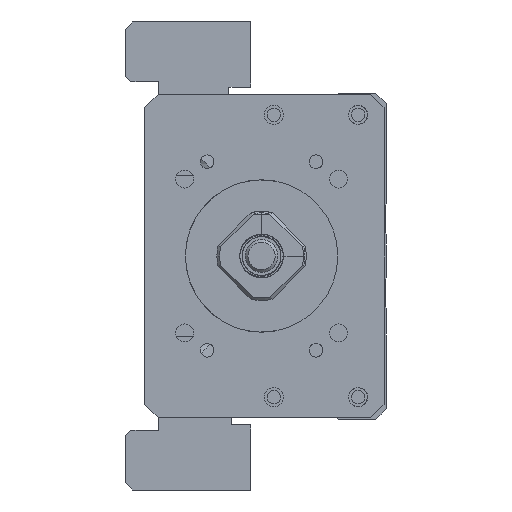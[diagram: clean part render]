
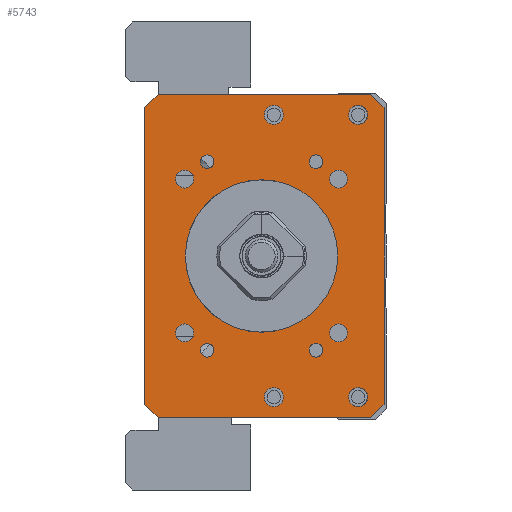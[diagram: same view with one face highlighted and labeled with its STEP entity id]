
A CAD part, left-side view. The second image highlights one B-rep face of the part: STEP entity #5743.
In plain terms, the highlighted planar face has unit normal (-1, 0, 0).
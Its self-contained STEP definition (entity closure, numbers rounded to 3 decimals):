
#4563=FACE_BOUND('',#7506,.T.);
#4564=FACE_BOUND('',#7507,.T.);
#4565=FACE_BOUND('',#7508,.T.);
#4566=FACE_BOUND('',#7509,.T.);
#4567=FACE_BOUND('',#7510,.T.);
#4568=FACE_BOUND('',#7511,.T.);
#4569=FACE_BOUND('',#7512,.T.);
#4570=FACE_BOUND('',#7513,.T.);
#4571=FACE_BOUND('',#7514,.T.);
#4572=FACE_BOUND('',#7515,.T.);
#4573=FACE_BOUND('',#7516,.T.);
#4574=FACE_BOUND('',#7517,.T.);
#4575=FACE_BOUND('',#7518,.T.);
#4576=FACE_BOUND('',#7519,.T.);
#5119=CIRCLE('',#16092,14.);
#5128=CIRCLE('',#16103,1.65);
#5129=CIRCLE('',#16104,1.65);
#5130=CIRCLE('',#16105,1.65);
#5131=CIRCLE('',#16106,1.65);
#5132=CIRCLE('',#16107,1.25);
#5133=CIRCLE('',#16108,1.75);
#5134=CIRCLE('',#16109,1.25);
#5135=CIRCLE('',#16110,1.75);
#5136=CIRCLE('',#16111,1.25);
#5137=CIRCLE('',#16112,1.75);
#5138=CIRCLE('',#16113,1.75);
#5139=CIRCLE('',#16114,1.25);
#5743=ADVANCED_FACE('',(#4563,#4564,#4565,#4566,#4567,#4568,#4569,#4570,
#4571,#4572,#4573,#4574,#4575,#4576),#6307,.F.);
#6307=PLANE('',#16115);
#7506=EDGE_LOOP('',(#9806));
#7507=EDGE_LOOP('',(#9807));
#7508=EDGE_LOOP('',(#9808));
#7509=EDGE_LOOP('',(#9809));
#7510=EDGE_LOOP('',(#9810));
#7511=EDGE_LOOP('',(#9811));
#7512=EDGE_LOOP('',(#9812));
#7513=EDGE_LOOP('',(#9813));
#7514=EDGE_LOOP('',(#9814));
#7515=EDGE_LOOP('',(#9815,#9816,#9817,#9818,#9819,#9820,#9821,#9822));
#7516=EDGE_LOOP('',(#9823));
#7517=EDGE_LOOP('',(#9824));
#7518=EDGE_LOOP('',(#9825));
#7519=EDGE_LOOP('',(#9826));
#9806=ORIENTED_EDGE('',*,*,#13017,.F.);
#9807=ORIENTED_EDGE('',*,*,#13018,.F.);
#9808=ORIENTED_EDGE('',*,*,#13019,.F.);
#9809=ORIENTED_EDGE('',*,*,#13020,.F.);
#9810=ORIENTED_EDGE('',*,*,#13021,.F.);
#9811=ORIENTED_EDGE('',*,*,#13022,.T.);
#9812=ORIENTED_EDGE('',*,*,#13023,.F.);
#9813=ORIENTED_EDGE('',*,*,#13024,.F.);
#9814=ORIENTED_EDGE('',*,*,#13025,.F.);
#9815=ORIENTED_EDGE('',*,*,#13014,.T.);
#9816=ORIENTED_EDGE('',*,*,#13026,.T.);
#9817=ORIENTED_EDGE('',*,*,#13027,.F.);
#9818=ORIENTED_EDGE('',*,*,#13028,.T.);
#9819=ORIENTED_EDGE('',*,*,#13029,.F.);
#9820=ORIENTED_EDGE('',*,*,#13030,.T.);
#9821=ORIENTED_EDGE('',*,*,#13031,.T.);
#9822=ORIENTED_EDGE('',*,*,#13032,.T.);
#9823=ORIENTED_EDGE('',*,*,#13033,.F.);
#9824=ORIENTED_EDGE('',*,*,#13034,.F.);
#9825=ORIENTED_EDGE('',*,*,#13035,.F.);
#9826=ORIENTED_EDGE('',*,*,#12994,.F.);
#11652=VERTEX_POINT('',#22453);
#11672=VERTEX_POINT('',#22513);
#11673=VERTEX_POINT('',#22515);
#11675=VERTEX_POINT('',#22521);
#11676=VERTEX_POINT('',#22523);
#11677=VERTEX_POINT('',#22525);
#11678=VERTEX_POINT('',#22527);
#11679=VERTEX_POINT('',#22529);
#11680=VERTEX_POINT('',#22531);
#11681=VERTEX_POINT('',#22533);
#11682=VERTEX_POINT('',#22535);
#11683=VERTEX_POINT('',#22537);
#11684=VERTEX_POINT('',#22539);
#11685=VERTEX_POINT('',#22541);
#11686=VERTEX_POINT('',#22543);
#11687=VERTEX_POINT('',#22545);
#11688=VERTEX_POINT('',#22547);
#11689=VERTEX_POINT('',#22549);
#11690=VERTEX_POINT('',#22552);
#11691=VERTEX_POINT('',#22554);
#11692=VERTEX_POINT('',#22556);
#12994=EDGE_CURVE('',#11652,#11652,#5119,.T.);
#13014=EDGE_CURVE('',#11673,#11672,#14254,.T.);
#13017=EDGE_CURVE('',#11675,#11675,#5128,.T.);
#13018=EDGE_CURVE('',#11676,#11676,#5129,.T.);
#13019=EDGE_CURVE('',#11677,#11677,#5130,.T.);
#13020=EDGE_CURVE('',#11678,#11678,#5131,.T.);
#13021=EDGE_CURVE('',#11679,#11679,#5132,.T.);
#13022=EDGE_CURVE('',#11680,#11680,#5133,.T.);
#13023=EDGE_CURVE('',#11681,#11681,#5134,.T.);
#13024=EDGE_CURVE('',#11682,#11682,#5135,.T.);
#13025=EDGE_CURVE('',#11683,#11683,#5136,.T.);
#13026=EDGE_CURVE('',#11672,#11684,#14256,.T.);
#13027=EDGE_CURVE('',#11685,#11684,#14257,.T.);
#13028=EDGE_CURVE('',#11685,#11686,#14258,.T.);
#13029=EDGE_CURVE('',#11687,#11686,#14259,.T.);
#13030=EDGE_CURVE('',#11687,#11688,#14260,.T.);
#13031=EDGE_CURVE('',#11688,#11689,#14261,.T.);
#13032=EDGE_CURVE('',#11689,#11673,#14262,.T.);
#13033=EDGE_CURVE('',#11690,#11690,#5137,.T.);
#13034=EDGE_CURVE('',#11691,#11691,#5138,.T.);
#13035=EDGE_CURVE('',#11692,#11692,#5139,.T.);
#14254=LINE('',#22514,#15173);
#14256=LINE('',#22538,#15175);
#14257=LINE('',#22540,#15176);
#14258=LINE('',#22542,#15177);
#14259=LINE('',#22544,#15178);
#14260=LINE('',#22546,#15179);
#14261=LINE('',#22548,#15180);
#14262=LINE('',#22550,#15181);
#15173=VECTOR('',#18567,1.);
#15175=VECTOR('',#18591,1.);
#15176=VECTOR('',#18592,1.);
#15177=VECTOR('',#18593,1.);
#15178=VECTOR('',#18594,1.);
#15179=VECTOR('',#18595,1.);
#15180=VECTOR('',#18596,1.);
#15181=VECTOR('',#18597,1.);
#16092=AXIS2_PLACEMENT_3D('',#22452,#18541,#18542);
#16103=AXIS2_PLACEMENT_3D('',#22520,#18573,#18574);
#16104=AXIS2_PLACEMENT_3D('',#22522,#18575,#18576);
#16105=AXIS2_PLACEMENT_3D('',#22524,#18577,#18578);
#16106=AXIS2_PLACEMENT_3D('',#22526,#18579,#18580);
#16107=AXIS2_PLACEMENT_3D('',#22528,#18581,#18582);
#16108=AXIS2_PLACEMENT_3D('',#22530,#18583,#18584);
#16109=AXIS2_PLACEMENT_3D('',#22532,#18585,#18586);
#16110=AXIS2_PLACEMENT_3D('',#22534,#18587,#18588);
#16111=AXIS2_PLACEMENT_3D('',#22536,#18589,#18590);
#16112=AXIS2_PLACEMENT_3D('',#22551,#18598,#18599);
#16113=AXIS2_PLACEMENT_3D('',#22553,#18600,#18601);
#16114=AXIS2_PLACEMENT_3D('',#22555,#18602,#18603);
#16115=AXIS2_PLACEMENT_3D('',#22557,#18604,#18605);
#18541=DIRECTION('',(-1.,0.,0.));
#18542=DIRECTION('',(0.,1.,0.));
#18567=DIRECTION('',(0.,0.,-1.));
#18573=DIRECTION('',(-1.,0.,0.));
#18574=DIRECTION('',(0.,0.,1.));
#18575=DIRECTION('',(-1.,0.,0.));
#18576=DIRECTION('',(0.,0.,1.));
#18577=DIRECTION('',(-1.,0.,0.));
#18578=DIRECTION('',(0.,0.,1.));
#18579=DIRECTION('',(-1.,0.,0.));
#18580=DIRECTION('',(0.,0.,1.));
#18581=DIRECTION('',(-1.,0.,0.));
#18582=DIRECTION('',(0.,1.,0.));
#18583=DIRECTION('',(1.,0.,0.));
#18584=DIRECTION('',(0.,0.,1.));
#18585=DIRECTION('',(-1.,0.,0.));
#18586=DIRECTION('',(0.,1.,0.));
#18587=DIRECTION('',(-1.,0.,0.));
#18588=DIRECTION('',(0.,0.,1.));
#18589=DIRECTION('',(-1.,0.,0.));
#18590=DIRECTION('',(0.,1.,0.));
#18591=DIRECTION('',(0.,-0.707,-0.707));
#18592=DIRECTION('',(0.,1.,0.));
#18593=DIRECTION('',(0.,-0.707,0.707));
#18594=DIRECTION('',(0.,0.,-1.));
#18595=DIRECTION('',(0.,0.707,0.707));
#18596=DIRECTION('',(0.,1.,0.));
#18597=DIRECTION('',(0.,0.707,-0.707));
#18598=DIRECTION('',(-1.,0.,0.));
#18599=DIRECTION('',(0.,0.,1.));
#18600=DIRECTION('',(-1.,0.,0.));
#18601=DIRECTION('',(0.,0.,1.));
#18602=DIRECTION('',(-1.,0.,0.));
#18603=DIRECTION('',(0.,1.,0.));
#18604=DIRECTION('',(1.,0.,0.));
#18605=DIRECTION('',(0.,1.,0.));
#22452=CARTESIAN_POINT('',(-211.,0.,-100.));
#22453=CARTESIAN_POINT('',(-211.,14.,-100.));
#22513=CARTESIAN_POINT('',(-211.,21.499,-127.25));
#22514=CARTESIAN_POINT('',(-211.,21.499,-70.25));
#22515=CARTESIAN_POINT('',(-211.,21.499,-72.75));
#22520=CARTESIAN_POINT('',(-211.,14.142,-85.858));
#22521=CARTESIAN_POINT('',(-211.,14.142,-84.208));
#22522=CARTESIAN_POINT('',(-211.,-14.142,-85.858));
#22523=CARTESIAN_POINT('',(-211.,-14.142,-84.208));
#22524=CARTESIAN_POINT('',(-211.,14.142,-114.142));
#22525=CARTESIAN_POINT('',(-211.,14.142,-112.492));
#22526=CARTESIAN_POINT('',(-211.,-14.142,-114.142));
#22527=CARTESIAN_POINT('',(-211.,-14.142,-112.492));
#22528=CARTESIAN_POINT('',(-211.,-10.,-117.321));
#22529=CARTESIAN_POINT('',(-211.,-8.75,-117.321));
#22530=CARTESIAN_POINT('',(-211.,-2.25,-125.936));
#22531=CARTESIAN_POINT('',(-211.,-2.25,-124.186));
#22532=CARTESIAN_POINT('',(-211.,10.,-82.679));
#22533=CARTESIAN_POINT('',(-211.,11.25,-82.679));
#22534=CARTESIAN_POINT('',(-211.,-2.25,-74.064));
#22535=CARTESIAN_POINT('',(-211.,-2.25,-72.314));
#22536=CARTESIAN_POINT('',(-211.,10.,-117.321));
#22537=CARTESIAN_POINT('',(-211.,11.25,-117.321));
#22538=CARTESIAN_POINT('',(-211.,18.999,-129.75));
#22539=CARTESIAN_POINT('',(-211.,18.999,-129.75));
#22540=CARTESIAN_POINT('',(-211.,-22.501,-129.75));
#22541=CARTESIAN_POINT('',(-211.,-20.001,-129.75));
#22542=CARTESIAN_POINT('',(-211.,-22.501,-127.25));
#22543=CARTESIAN_POINT('',(-211.,-22.501,-127.25));
#22544=CARTESIAN_POINT('',(-211.,-22.501,-70.25));
#22545=CARTESIAN_POINT('',(-211.,-22.501,-72.75));
#22546=CARTESIAN_POINT('',(-211.,-22.501,-72.75));
#22547=CARTESIAN_POINT('',(-211.,-20.001,-70.25));
#22548=CARTESIAN_POINT('',(-211.,-22.501,-70.25));
#22549=CARTESIAN_POINT('',(-211.,18.999,-70.25));
#22550=CARTESIAN_POINT('',(-211.,18.999,-70.25));
#22551=CARTESIAN_POINT('',(-211.,-17.75,-74.064));
#22552=CARTESIAN_POINT('',(-211.,-17.75,-72.314));
#22553=CARTESIAN_POINT('',(-211.,-17.75,-125.936));
#22554=CARTESIAN_POINT('',(-211.,-17.75,-124.186));
#22555=CARTESIAN_POINT('',(-211.,-10.,-82.679));
#22556=CARTESIAN_POINT('',(-211.,-8.75,-82.679));
#22557=CARTESIAN_POINT('',(-211.,-22.501,-70.25));
